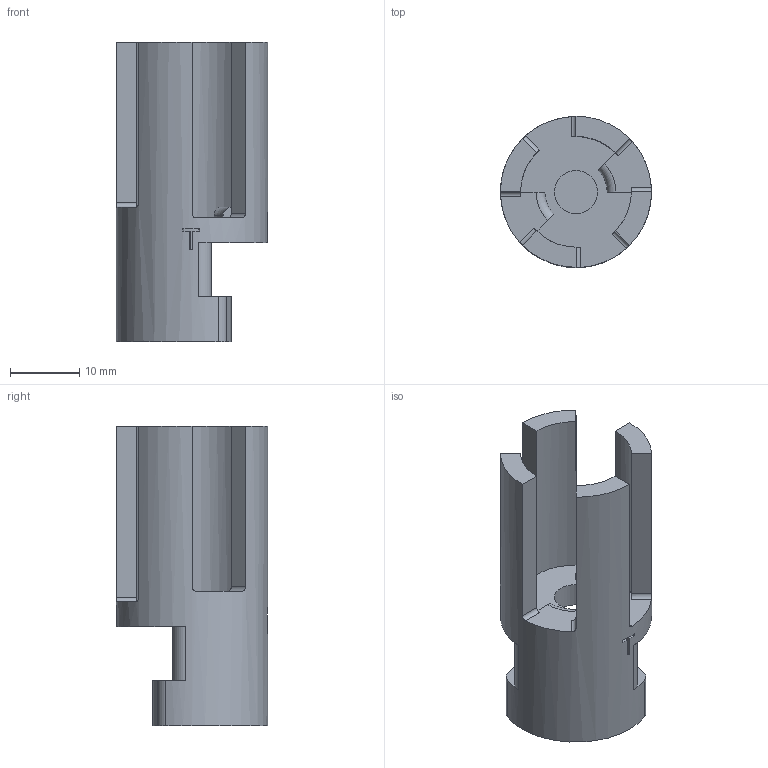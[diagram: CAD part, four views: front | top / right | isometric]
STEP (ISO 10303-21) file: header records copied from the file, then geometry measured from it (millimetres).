
FILE_DESCRIPTION(/* description */ (''),/* implementation_level */ '2;1');
FILE_NAME(/* name */ 'D:\Downloads\Project-ButWhatAbout-ECM-9x19-Barrel-DIY-V1-Package (3)\Revised Components\asdf\ECM CAD\STEP\Throating End Pilot Metric (6mm).stp',/* time_stamp */ '2021-02-15T01:39:06-06:00',/* author */ ('johne'),/* organization */ (''),/* preprocessor_version */ 'ST-DEVELOPER v18',/* originating_system */ 'Autodesk Inventor 2020',/* authorisation */ '');
FILE_SCHEMA (('AUTOMOTIVE_DESIGN { 1 0 10303 214 3 1 1 }'));
Length unit declared in the file: millimetre
Products named in the file (1): Throating Tool 6mm rod
Bounding box: 21.84 x 21.84 x 43.36 mm (x, y, z)
Volume: 5757.1 mm3; surface area: 4055.8 mm2
Topology: 1 solids, 1 shells, 55 faces, 160 edges, 113 vertices
Faces by surface type: plane 31, cylinder 22, torus 2
Full cylindrical faces by diameter (mm): 6.25 x1, 21.844 x1
Entity records: 1989 total; most frequent: CARTESIAN_POINT 468, ORIENTED_EDGE 310, DIRECTION 306, EDGE_CURVE 155, AXIS2_PLACEMENT_3D 111, VERTEX_POINT 103, LINE 84, VECTOR 84
